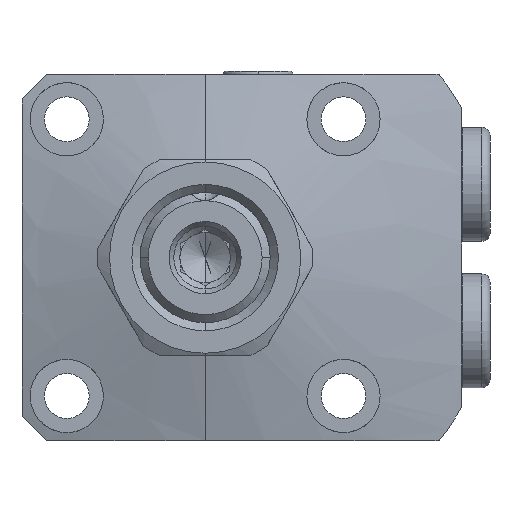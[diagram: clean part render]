
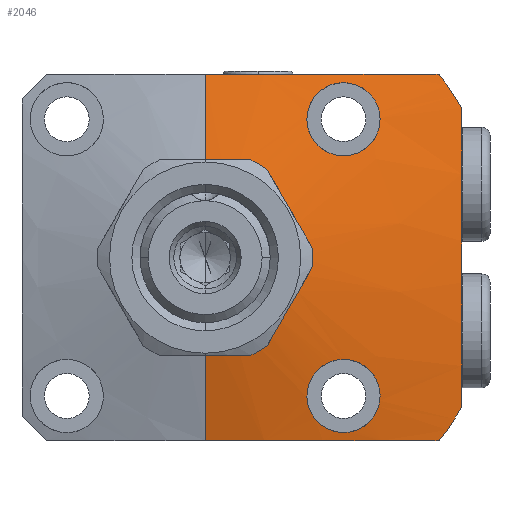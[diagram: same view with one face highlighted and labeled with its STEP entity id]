
A CAD part, left-side view. The second image highlights one B-rep face of the part: STEP entity #2046.
In plain terms, the highlighted conical face has half-angle 75 degrees and reference radius 12 mm.
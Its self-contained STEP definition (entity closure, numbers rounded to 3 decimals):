
#1029=FACE_BOUND('',#2629,.T.);
#1030=FACE_BOUND('',#2630,.T.);
#1031=FACE_BOUND('',#2631,.T.);
#1349=CONICAL_SURFACE('',#6063,12.,75.);
#1486=LINE('',#8728,#1715);
#1487=LINE('',#8757,#1716);
#1715=VECTOR('',#6967,1.);
#1716=VECTOR('',#6968,1.);
#2046=ADVANCED_FACE('',(#1029,#1030,#1031),#1349,.T.);
#2629=EDGE_LOOP('',(#3824,#3825,#3826,#3827,#3828,#3829,#3830,#3831));
#2630=EDGE_LOOP('',(#3832,#3833));
#2631=EDGE_LOOP('',(#3834,#3835));
#2756=B_SPLINE_CURVE_WITH_KNOTS('',3,(#8791,#8792,#8793,#8794,#8795,#8796,
#8797,#8798,#8799,#8800),.UNSPECIFIED.,.F.,.F.,(4,2,2,2,4),(0.,0.25,0.5,
0.75,1.),.UNSPECIFIED.);
#2757=B_SPLINE_CURVE_WITH_KNOTS('',3,(#8809,#8810,#8811,#8812,#8813,#8814,
#8815,#8816,#8817,#8818),.UNSPECIFIED.,.F.,.F.,(4,2,2,2,4),(0.,0.25,0.5,
0.75,1.),.UNSPECIFIED.);
#2761=B_SPLINE_CURVE_WITH_KNOTS('',3,(#9194,#9195,#9196,#9197,#9198,#9199,
#9200,#9201,#9202,#9203),.UNSPECIFIED.,.F.,.F.,(4,2,2,2,4),(0.,0.25,0.5,
0.75,1.),.UNSPECIFIED.);
#2762=B_SPLINE_CURVE_WITH_KNOTS('',3,(#9206,#9207,#9208,#9209,#9210,#9211,
#9212,#9213,#9214,#9215),.UNSPECIFIED.,.F.,.F.,(4,2,2,2,4),(0.,0.25,0.5,
0.75,1.),.UNSPECIFIED.);
#2763=B_SPLINE_CURVE_WITH_KNOTS('',3,(#9223,#9224,#9225,#9226),
 .UNSPECIFIED.,.F.,.F.,(4,4),(0.,1.),.UNSPECIFIED.);
#2764=B_SPLINE_CURVE_WITH_KNOTS('',3,(#9230,#9231,#9232,#9233,#9234),
 .UNSPECIFIED.,.F.,.F.,(4,1,4),(0.,0.5,1.),.UNSPECIFIED.);
#2765=B_SPLINE_CURVE_WITH_KNOTS('',3,(#9238,#9239,#9240,#9241),
 .UNSPECIFIED.,.F.,.F.,(4,4),(0.,1.),.UNSPECIFIED.);
#3824=ORIENTED_EDGE('',*,*,#4870,.T.);
#3825=ORIENTED_EDGE('',*,*,#5053,.F.);
#3826=ORIENTED_EDGE('',*,*,#4876,.F.);
#3827=ORIENTED_EDGE('',*,*,#5063,.F.);
#3828=ORIENTED_EDGE('',*,*,#5064,.T.);
#3829=ORIENTED_EDGE('',*,*,#5065,.F.);
#3830=ORIENTED_EDGE('',*,*,#5066,.T.);
#3831=ORIENTED_EDGE('',*,*,#5067,.F.);
#3832=ORIENTED_EDGE('',*,*,#5057,.F.);
#3833=ORIENTED_EDGE('',*,*,#4895,.F.);
#3834=ORIENTED_EDGE('',*,*,#5059,.F.);
#3835=ORIENTED_EDGE('',*,*,#4891,.F.);
#4338=VERTEX_POINT('',#8726);
#4339=VERTEX_POINT('',#8727);
#4340=VERTEX_POINT('',#8729);
#4345=VERTEX_POINT('',#8756);
#4360=VERTEX_POINT('',#8790);
#4361=VERTEX_POINT('',#8801);
#4364=VERTEX_POINT('',#8808);
#4365=VERTEX_POINT('',#8819);
#4454=VERTEX_POINT('',#9227);
#4455=VERTEX_POINT('',#9229);
#4456=VERTEX_POINT('',#9235);
#4457=VERTEX_POINT('',#9237);
#4870=EDGE_CURVE('',#4340,#4338,#1486,.T.);
#4876=EDGE_CURVE('',#4345,#4339,#1487,.T.);
#4891=EDGE_CURVE('',#4360,#4361,#2756,.T.);
#4895=EDGE_CURVE('',#4364,#4365,#2757,.T.);
#5053=EDGE_CURVE('',#4339,#4338,#5460,.T.);
#5057=EDGE_CURVE('',#4365,#4364,#2761,.T.);
#5059=EDGE_CURVE('',#4361,#4360,#2762,.T.);
#5063=EDGE_CURVE('',#4454,#4345,#2763,.T.);
#5064=EDGE_CURVE('',#4454,#4455,#5468,.T.);
#5065=EDGE_CURVE('',#4456,#4455,#2764,.T.);
#5066=EDGE_CURVE('',#4456,#4457,#5469,.T.);
#5067=EDGE_CURVE('',#4340,#4457,#2765,.T.);
#5460=CIRCLE('',#6045,12.);
#5468=CIRCLE('',#6061,36.5);
#5469=CIRCLE('',#6062,36.5);
#6045=AXIS2_PLACEMENT_3D('',#9187,#7418,#7419);
#6061=AXIS2_PLACEMENT_3D('',#9228,#7450,#7451);
#6062=AXIS2_PLACEMENT_3D('',#9236,#7452,#7453);
#6063=AXIS2_PLACEMENT_3D('',#9242,#7454,#7455);
#6967=DIRECTION('',(-0.259,0.,-0.966));
#6968=DIRECTION('',(-0.259,0.,0.966));
#7418=DIRECTION('',(-1.,0.,0.));
#7419=DIRECTION('',(0.,0.,1.));
#7450=DIRECTION('',(-1.,0.,0.));
#7451=DIRECTION('',(0.,0.,1.));
#7452=DIRECTION('',(-1.,0.,0.));
#7453=DIRECTION('',(0.,0.,1.));
#7454=DIRECTION('',(1.,0.,0.));
#7455=DIRECTION('',(0.,0.,1.));
#8726=CARTESIAN_POINT('',(-25.,0.,12.));
#8727=CARTESIAN_POINT('',(-25.,0.,-12.));
#8728=CARTESIAN_POINT('',(-25.,0.,12.));
#8729=CARTESIAN_POINT('',(-22.187,0.,22.5));
#8756=CARTESIAN_POINT('',(-22.187,0.,-22.5));
#8757=CARTESIAN_POINT('',(-25.,0.,-12.));
#8790=CARTESIAN_POINT('',(-22.561,-17.,12.5));
#8791=CARTESIAN_POINT('',(-22.561,-17.,12.5));
#8792=CARTESIAN_POINT('',(-22.306,-18.182,12.5));
#8793=CARTESIAN_POINT('',(-21.981,-19.318,12.973));
#8794=CARTESIAN_POINT('',(-21.37,-20.972,14.589));
#8795=CARTESIAN_POINT('',(-21.085,-21.477,15.74));
#8796=CARTESIAN_POINT('',(-20.686,-21.522,18.088));
#8797=CARTESIAN_POINT('',(-20.571,-21.054,19.292));
#8798=CARTESIAN_POINT('',(-20.565,-19.377,21.005));
#8799=CARTESIAN_POINT('',(-20.673,-18.193,21.5));
#8800=CARTESIAN_POINT('',(-20.871,-17.,21.5));
#8801=CARTESIAN_POINT('',(-20.871,-17.,21.5));
#8808=CARTESIAN_POINT('',(-20.871,-17.,-21.5));
#8809=CARTESIAN_POINT('',(-20.871,-17.,-21.5));
#8810=CARTESIAN_POINT('',(-20.673,-18.192,-21.5));
#8811=CARTESIAN_POINT('',(-20.565,-19.376,-21.003));
#8812=CARTESIAN_POINT('',(-20.57,-21.047,-19.301));
#8813=CARTESIAN_POINT('',(-20.684,-21.52,-18.101));
#8814=CARTESIAN_POINT('',(-21.085,-21.478,-15.738));
#8815=CARTESIAN_POINT('',(-21.369,-20.975,-14.593));
#8816=CARTESIAN_POINT('',(-21.982,-19.315,-12.97));
#8817=CARTESIAN_POINT('',(-22.306,-18.181,-12.5));
#8818=CARTESIAN_POINT('',(-22.561,-17.,-12.5));
#8819=CARTESIAN_POINT('',(-22.561,-17.,-12.5));
#9187=CARTESIAN_POINT('',(-25.,0.,0.));
#9194=CARTESIAN_POINT('',(-22.561,-17.,-12.5));
#9195=CARTESIAN_POINT('',(-22.817,-15.816,-12.5));
#9196=CARTESIAN_POINT('',(-22.982,-14.633,-12.991));
#9197=CARTESIAN_POINT('',(-22.976,-12.955,-14.694));
#9198=CARTESIAN_POINT('',(-22.804,-12.483,-15.891));
#9199=CARTESIAN_POINT('',(-22.29,-12.518,-18.242));
#9200=CARTESIAN_POINT('',(-21.962,-13.008,-19.379));
#9201=CARTESIAN_POINT('',(-21.35,-14.659,-21.015));
#9202=CARTESIAN_POINT('',(-21.07,-15.805,-21.5));
#9203=CARTESIAN_POINT('',(-20.871,-17.,-21.5));
#9206=CARTESIAN_POINT('',(-20.871,-17.,21.5));
#9207=CARTESIAN_POINT('',(-21.07,-15.805,21.5));
#9208=CARTESIAN_POINT('',(-21.351,-14.656,21.012));
#9209=CARTESIAN_POINT('',(-21.961,-13.011,19.382));
#9210=CARTESIAN_POINT('',(-22.291,-12.519,18.237));
#9211=CARTESIAN_POINT('',(-22.801,-12.482,15.906));
#9212=CARTESIAN_POINT('',(-22.975,-12.947,14.706));
#9213=CARTESIAN_POINT('',(-22.983,-14.631,12.99));
#9214=CARTESIAN_POINT('',(-22.817,-15.816,12.5));
#9215=CARTESIAN_POINT('',(-22.561,-17.,12.5));
#9223=CARTESIAN_POINT('',(-18.435,-28.74,-22.5));
#9224=CARTESIAN_POINT('',(-20.436,-19.258,-22.5));
#9225=CARTESIAN_POINT('',(-22.187,-9.743,-22.5));
#9226=CARTESIAN_POINT('',(-22.187,0.,-22.5));
#9227=CARTESIAN_POINT('',(-18.435,-28.74,-22.5));
#9228=CARTESIAN_POINT('',(-18.435,0.,0.));
#9229=CARTESIAN_POINT('',(-18.435,-31.5,-18.439));
#9230=CARTESIAN_POINT('',(-18.435,-31.5,18.439));
#9231=CARTESIAN_POINT('',(-19.267,-31.5,12.293));
#9232=CARTESIAN_POINT('',(-20.283,-31.5,0.));
#9233=CARTESIAN_POINT('',(-19.267,-31.5,-12.293));
#9234=CARTESIAN_POINT('',(-18.435,-31.5,-18.439));
#9235=CARTESIAN_POINT('',(-18.435,-31.5,18.439));
#9236=CARTESIAN_POINT('',(-18.435,0.,0.));
#9237=CARTESIAN_POINT('',(-18.435,-28.74,22.5));
#9238=CARTESIAN_POINT('',(-22.187,0.,22.5));
#9239=CARTESIAN_POINT('',(-22.187,-9.722,22.5));
#9240=CARTESIAN_POINT('',(-20.436,-19.259,22.5));
#9241=CARTESIAN_POINT('',(-18.435,-28.74,22.5));
#9242=CARTESIAN_POINT('',(-25.,0.,0.));
